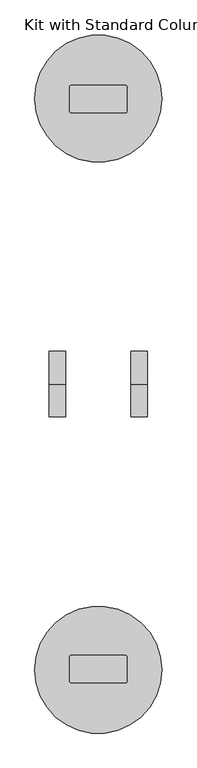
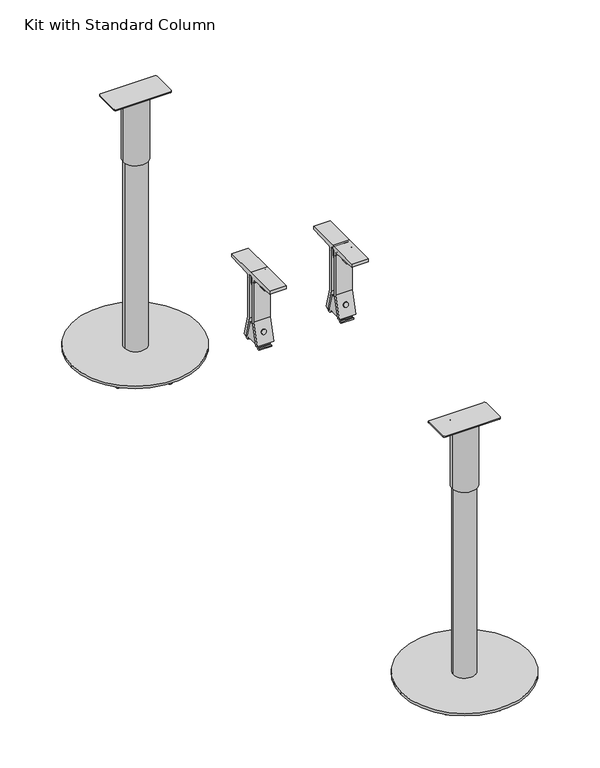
"""IFC4 building model written with IfcOpenShell, lengths in millimetres: furniture geometry, Steelcase - C Scape - Mid Storage Support - Mirrored Application : Kit with Standard Column."""

from ifc_helpers import new_model, si_unit, point, frame, frame_2d, origin, origin_with_axes, place, context, project, spatial, polyline, circle_curve, trimmed, segment, composite_curve, outline, extrude, source, transform, mapped, element, save
from ifc_brep_helpers import plane_surface, cylinder_surface, advanced_brep


def kit_with_standard_column_b97b8489(model_context):
    return source(origin(), model_context, "Body", "SolidModel", [
        extrude(outline(composite_curve([segment(polyline([(388.5822894, -924.3755951), (221.2781732, -924.3755951)]), True, "CONTINUOUS"), segment(trimmed(circle_curve(frame_2d((221.2781732, -918.997434)), 5.3781611), [point((221.2781732, -924.3755951))], [point((215.9000121, -918.997434))], False, "CARTESIAN"), True, "CONTINUOUS"), segment(polyline([(215.9000121, -918.997434), (215.9000121, -844.3790844)]), True, "CONTINUOUS"), segment(trimmed(circle_curve(frame_2d((220.9933657, -844.3790844)), 5.0933536), [point((215.9000121, -844.3790844))], [point((220.9933657, -839.2857308))], False, "CARTESIAN"), True, "CONTINUOUS"), segment(polyline([(220.9933657, -839.2857308), (388.5118021, -839.2857308)]), True, "CONTINUOUS"), segment(trimmed(circle_curve(frame_2d((388.5118021, -844.4739165)), 5.1881858), [point((388.5118021, -839.2857308))], [point((393.6999879, -844.4739165))], False, "CARTESIAN"), True, "CONTINUOUS"), segment(polyline([(393.6999879, -844.4739165), (393.6999879, -919.2578966)]), True, "CONTINUOUS"), segment(trimmed(circle_curve(frame_2d((388.5822894, -919.2578966)), 5.1176985), [point((393.6999879, -919.2578966))], [point((388.5822894, -924.3755951))], False, "CARTESIAN"), True, "CONTINUOUS")], self_intersect=False)), frame((0.0, 0.0, 835.152), z_axis=(0.0, 0.0, 1.0), x_axis=(1.0, 0.0, 0.0)), (0.0, 0.0, 1.0), 3.048),
        extrude(outline(composite_curve([segment(trimmed(circle_curve(frame_2d((304.8, -881.830663)), 33.998969), [point((270.801031, -881.830663))], [point((338.798969, -881.830663))], False, "CARTESIAN"), True, "CONTINUOUS"), segment(trimmed(circle_curve(frame_2d((304.8, -881.830663)), 33.998969), [point((338.798969, -881.830663))], [point((270.801031, -881.830663))], False, "CARTESIAN"), True, "CONTINUOUS")], self_intersect=False)), frame((0.0, 0.0, 14.3002), z_axis=(0.0, 0.0, 1.0), x_axis=(1.0, 0.0, 0.0)), (0.0, 0.0, 1.0), 611.3018),
        extrude(outline(composite_curve([segment(trimmed(circle_curve(frame_2d((304.8, -881.830663)), 38.1), [point((266.7, -881.830663))], [point((342.9, -881.830663))], False, "CARTESIAN"), True, "CONTINUOUS"), segment(trimmed(circle_curve(frame_2d((304.8, -881.830663)), 38.1), [point((342.9, -881.830663))], [point((266.7, -881.830663))], False, "CARTESIAN"), True, "CONTINUOUS")], self_intersect=False)), frame((0.0, 0.0, 625.602), z_axis=(0.0, 0.0, 1.0), x_axis=(1.0, 0.0, 0.0)), (0.0, 0.0, 1.0), 209.55),
        extrude(outline(composite_curve([segment(trimmed(circle_curve(frame_2d((304.8, -883.7357308)), 196.85), [point((107.95, -883.7357308))], [point((501.65, -883.7357308))], False, "CARTESIAN"), True, "CONTINUOUS"), segment(trimmed(circle_curve(frame_2d((304.8, -883.7357308)), 196.85), [point((501.65, -883.7357308))], [point((107.95, -883.7357308))], False, "CARTESIAN"), True, "CONTINUOUS")], self_intersect=False)), frame((0.0, 0.0, 6.2992), z_axis=(0.0, 0.0, 1.0), x_axis=(1.0, 0.0, 0.0)), (0.0, 0.0, 1.0), 8.001),
        extrude(outline(composite_curve([segment(trimmed(circle_curve(frame_2d((304.8, -1065.8931778)), 6.35), [point((298.45, -1065.8931778))], [point((311.15, -1065.8931778))], False, "CARTESIAN"), True, "CONTINUOUS"), segment(trimmed(circle_curve(frame_2d((304.8, -1065.8931778)), 6.35), [point((311.15, -1065.8931778))], [point((298.45, -1065.8931778))], False, "CARTESIAN"), True, "CONTINUOUS")], self_intersect=False)), origin_with_axes(), (0.0, 0.0, 1.0), 6.2992),
        extrude(outline(composite_curve([segment(trimmed(circle_curve(frame_2d((304.8, -697.7681481)), 6.35), [point((298.45, -697.7681481))], [point((311.15, -697.7681481))], False, "CARTESIAN"), True, "CONTINUOUS"), segment(trimmed(circle_curve(frame_2d((304.8, -697.7681481)), 6.35), [point((311.15, -697.7681481))], [point((298.45, -697.7681481))], False, "CARTESIAN"), True, "CONTINUOUS")], self_intersect=False)), origin_with_axes(), (0.0, 0.0, 1.0), 6.2992),
        extrude(outline(composite_curve([segment(trimmed(circle_curve(frame_2d((434.9518524, -751.6788105)), 6.35), [point((428.6018524, -751.6788105))], [point((441.3018524, -751.6788105))], False, "CARTESIAN"), True, "CONTINUOUS"), segment(trimmed(circle_curve(frame_2d((434.9518524, -751.6788105)), 6.35), [point((441.3018524, -751.6788105))], [point((428.6018524, -751.6788105))], False, "CARTESIAN"), True, "CONTINUOUS")], self_intersect=False)), origin_with_axes(), (0.0, 0.0, 1.0), 6.2992),
        extrude(outline(composite_curve([segment(trimmed(circle_curve(frame_2d((174.6481476, -1011.9825154)), 6.35), [point((168.2981476, -1011.9825154))], [point((180.9981476, -1011.9825154))], False, "CARTESIAN"), True, "CONTINUOUS"), segment(trimmed(circle_curve(frame_2d((174.6481476, -1011.9825154)), 6.35), [point((180.9981476, -1011.9825154))], [point((168.2981476, -1011.9825154))], False, "CARTESIAN"), True, "CONTINUOUS")], self_intersect=False)), origin_with_axes(), (0.0, 0.0, 1.0), 6.2992),
        extrude(outline(composite_curve([segment(trimmed(circle_curve(frame_2d((174.6481476, -751.6788105)), 6.35), [point((168.2981476, -751.6788105))], [point((180.9981476, -751.6788105))], False, "CARTESIAN"), True, "CONTINUOUS"), segment(trimmed(circle_curve(frame_2d((174.6481476, -751.6788105)), 6.35), [point((180.9981476, -751.6788105))], [point((168.2981476, -751.6788105))], False, "CARTESIAN"), True, "CONTINUOUS")], self_intersect=False)), origin_with_axes(), (0.0, 0.0, 1.0), 6.2992),
        extrude(outline(composite_curve([segment(trimmed(circle_curve(frame_2d((434.9518524, -1011.9825154)), 6.35), [point((428.6018524, -1011.9825154))], [point((441.3018524, -1011.9825154))], False, "CARTESIAN"), True, "CONTINUOUS"), segment(trimmed(circle_curve(frame_2d((434.9518524, -1011.9825154)), 6.35), [point((441.3018524, -1011.9825154))], [point((428.6018524, -1011.9825154))], False, "CARTESIAN"), True, "CONTINUOUS")], self_intersect=False)), origin_with_axes(), (0.0, 0.0, 1.0), 6.2992),
        extrude(outline(composite_curve([segment(trimmed(circle_curve(frame_2d((488.8625149, -881.830663)), 6.35), [point((482.5125149, -881.830663))], [point((495.2125149, -881.830663))], False, "CARTESIAN"), True, "CONTINUOUS"), segment(trimmed(circle_curve(frame_2d((488.8625149, -881.830663)), 6.35), [point((495.2125149, -881.830663))], [point((482.5125149, -881.830663))], False, "CARTESIAN"), True, "CONTINUOUS")], self_intersect=False)), origin_with_axes(), (0.0, 0.0, 1.0), 6.2992),
        extrude(outline(composite_curve([segment(trimmed(circle_curve(frame_2d((120.7374851, -881.830663)), 6.35), [point((114.3874851, -881.830663))], [point((127.0874851, -881.830663))], False, "CARTESIAN"), True, "CONTINUOUS"), segment(trimmed(circle_curve(frame_2d((120.7374851, -881.830663)), 6.35), [point((127.0874851, -881.830663))], [point((114.3874851, -881.830663))], False, "CARTESIAN"), True, "CONTINUOUS")], self_intersect=False)), origin_with_axes(), (0.0, 0.0, 1.0), 6.2992),
        extrude(outline(composite_curve([segment(trimmed(circle_curve(frame_2d((0.0, -7.62)), 7.62), [point((0.0, -15.2400001))], [point((0.0, 0.0))], False, "CARTESIAN"), True, "CONTINUOUS"), segment(trimmed(circle_curve(frame_2d((0.0, -7.62)), 7.62), [point((0.0, 0.0))], [point((0.0, -15.2400001))], False, "CARTESIAN"), True, "CONTINUOUS")], self_intersect=False)), frame((431.6372744, -27.6488399, 643.460563), z_axis=(0.0, -0.9612616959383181, 0.27563735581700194), x_axis=(-1.0, 0.0, 0.0)), (0.0, 0.0, 1.0), 1.4986),
        extrude(outline(composite_curve([segment(trimmed(circle_curve(frame_2d((0.0, -7.62)), 7.62), [point((0.0, -15.2400001))], [point((0.0, 0.0))], False, "CARTESIAN"), True, "CONTINUOUS"), segment(trimmed(circle_curve(frame_2d((0.0, -7.62)), 7.62), [point((0.0, 0.0))], [point((0.0, -15.2400001))], False, "CARTESIAN"), True, "CONTINUOUS")], self_intersect=False)), frame((431.6372744, 27.6488399, 643.460563), z_axis=(0.0, 0.9612616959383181, 0.27563735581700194), x_axis=(1.0, 0.0, 0.0)), (0.0, 0.0, 1.0), 1.4986),
        extrude(outline(composite_curve([segment(polyline([(831.0188755, 412.7499939), (796.4677708, 412.7499939)]), True, "CONTINUOUS"), segment(trimmed(circle_curve(frame_2d((796.4677708, 431.7223365)), 18.9723425), [point((796.4677708, 412.7499939))], [point((796.4677708, 450.694679))], False, "CARTESIAN"), True, "CONTINUOUS"), segment(polyline([(796.4677708, 450.694679), (831.0188755, 450.694679), (831.0188755, 412.7499939)]), True, "CONTINUOUS")], self_intersect=False)), frame((0.0, -7.7216, 0.0), z_axis=(0.0, 1.0, 0.0), x_axis=(0.0, 0.0, 1.0)), (0.0, 0.0, 1.0), 15.4432),
        extrude(outline(composite_curve([segment(trimmed(circle_curve(frame_2d((795.2125216, 431.6777999)), 5.08), [point((795.2125216, 426.5977999))], [point((795.2125216, 436.7577999))], False, "CARTESIAN"), True, "CONTINUOUS"), segment(trimmed(circle_curve(frame_2d((795.2125216, 431.6777999)), 5.08), [point((795.2125216, 436.7577999))], [point((795.2125216, 426.5977999))], False, "CARTESIAN"), True, "CONTINUOUS")], self_intersect=False)), frame((0.0, -33.751708, 0.0), z_axis=(0.0, 1.0, 0.0), x_axis=(0.0, 0.0, 1.0)), (0.0, 0.0, 1.0), 67.5034159),
        extrude(outline(polyline([(-12.7029566, 666.75), (0.0, 666.75), (12.7029566, 666.75), (28.4480001, 611.8301829), (28.4480001, 607.0345769), (29.7688272, 605.713791), (34.9250008, 605.713791), (34.9250008, 601.7005912), (32.4173128, 600.2527871), (27.5068015, 600.2527871), (22.9870008, 604.7725827), (22.9870008, 610.3620174), (0.0, 610.3620174), (-22.9870008, 610.3620174), (-22.9870008, 604.7725827), (-27.5068015, 600.2527871), (-32.4173128, 600.2527871), (-34.9250008, 601.7005912), (-34.9250008, 605.713791), (-29.7688272, 605.713791), (-28.4480001, 607.0345769), (-28.4480001, 611.8301829), (-12.7029566, 666.75)])), frame((412.8276575, 0.0, 0.0), z_axis=(1.0, 0.0, 0.0), x_axis=(0.0, 1.0, 0.0)), (0.0, 0.0, 1.0), 37.9446851),
        extrude(outline(composite_curve([segment(polyline([(0.0, 838.2), (101.600003, 838.2), (101.600003, 828.2177708), (19.2990887, 824.4254454)]), True, "CONTINUOUS"), segment(trimmed(circle_curve(frame_2d((19.4630785, 820.8665431)), 3.5626785), [point((19.2990887, 824.4254454))], [point((15.9004, 820.8665431))], True, "CARTESIAN"), True, "CONTINUOUS"), segment(polyline([(15.9004, 820.8665431), (15.9004, 813.4440849), (14.8286664, 813.0540058), (15.9004, 813.0540058), (15.9004, 684.432242), (35.5026697, 616.0710033), (27.860447, 613.8796312), (7.9494757, 683.3174402), (7.9494757, 821.8670528)]), True, "CONTINUOUS"), segment(trimmed(circle_curve(frame_2d((0.0, 821.8670528)), 7.9494757), [point((7.9494757, 821.8670528))], [point((-7.9494757, 821.8670528))], True, "CARTESIAN"), True, "CONTINUOUS"), segment(polyline([(-7.9494757, 821.8670528), (-7.9494757, 683.3174402), (-27.860447, 613.8796312), (-35.5026697, 616.0710033), (-15.9004, 684.432242), (-15.9004, 813.0540058), (-14.8286664, 813.0540058), (-15.9004, 813.4440849), (-15.9004, 820.8665431)]), True, "CONTINUOUS"), segment(trimmed(circle_curve(frame_2d((-19.4630785, 820.8665431)), 3.5626785), [point((-15.9004, 820.8665431))], [point((-19.2990887, 824.4254454))], True, "CARTESIAN"), True, "CONTINUOUS"), segment(polyline([(-19.2990887, 824.4254454), (-101.600003, 828.2177708), (-101.600003, 838.2), (0.0, 838.2)]), True, "CONTINUOUS")], self_intersect=False)), frame((406.4, 0.0, 0.0), z_axis=(1.0, 0.0, 0.0), x_axis=(0.0, 1.0, 0.0)), (0.0, 0.0, 1.0), 50.8),
        extrude(outline(composite_curve([segment(trimmed(circle_curve(frame_2d((0.0, -7.62)), 7.62), [point((0.0, -15.2400001))], [point((0.0, 0.0))], False, "CARTESIAN"), True, "CONTINUOUS"), segment(trimmed(circle_curve(frame_2d((0.0, -7.62)), 7.62), [point((0.0, 0.0))], [point((0.0, -15.2400001))], False, "CARTESIAN"), True, "CONTINUOUS")], self_intersect=False)), frame((177.6372744, -27.6488399, 643.460563), z_axis=(0.0, -0.9612616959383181, 0.27563735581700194), x_axis=(-1.0, 0.0, 0.0)), (0.0, 0.0, 1.0), 1.4986),
        extrude(outline(composite_curve([segment(trimmed(circle_curve(frame_2d((0.0, -7.62)), 7.62), [point((0.0, -15.2400001))], [point((0.0, 0.0))], False, "CARTESIAN"), True, "CONTINUOUS"), segment(trimmed(circle_curve(frame_2d((0.0, -7.62)), 7.62), [point((0.0, 0.0))], [point((0.0, -15.2400001))], False, "CARTESIAN"), True, "CONTINUOUS")], self_intersect=False)), frame((177.6372744, 27.6488399, 643.460563), z_axis=(0.0, 0.9612616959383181, 0.27563735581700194), x_axis=(1.0, 0.0, 0.0)), (0.0, 0.0, 1.0), 1.4986),
        extrude(outline(composite_curve([segment(trimmed(circle_curve(frame_2d((795.2125216, 177.6777999)), 5.08), [point((795.2125216, 172.5977999))], [point((795.2125216, 182.7577999))], False, "CARTESIAN"), True, "CONTINUOUS"), segment(trimmed(circle_curve(frame_2d((795.2125216, 177.6777999)), 5.08), [point((795.2125216, 182.7577999))], [point((795.2125216, 172.5977999))], False, "CARTESIAN"), True, "CONTINUOUS")], self_intersect=False)), frame((0.0, -33.751708, 0.0), z_axis=(0.0, 1.0, 0.0), x_axis=(0.0, 0.0, 1.0)), (0.0, 0.0, 1.0), 67.5034159),
        extrude(outline(composite_curve([segment(polyline([(831.0188755, 158.7499939), (796.4677708, 158.7499939)]), True, "CONTINUOUS"), segment(trimmed(circle_curve(frame_2d((796.4677708, 177.7223365)), 18.9723425), [point((796.4677708, 158.7499939))], [point((796.4677708, 196.694679))], False, "CARTESIAN"), True, "CONTINUOUS"), segment(polyline([(796.4677708, 196.694679), (831.0188755, 196.694679), (831.0188755, 158.7499939)]), True, "CONTINUOUS")], self_intersect=False)), frame((0.0, -7.7216, 0.0), z_axis=(0.0, 1.0, 0.0), x_axis=(0.0, 0.0, 1.0)), (0.0, 0.0, 1.0), 15.4432),
        extrude(outline(polyline([(-12.7029566, 666.75), (0.0, 666.75), (12.7029566, 666.75), (28.4480001, 611.8301829), (28.4480001, 607.0345769), (29.7688272, 605.713791), (34.9250008, 605.713791), (34.9250008, 601.7005912), (32.4173128, 600.2527871), (27.5068015, 600.2527871), (22.9870008, 604.7725827), (22.9870008, 610.3620174), (0.0, 610.3620174), (-22.9870008, 610.3620174), (-22.9870008, 604.7725827), (-27.5068015, 600.2527871), (-32.4173128, 600.2527871), (-34.9250008, 601.7005912), (-34.9250008, 605.713791), (-29.7688272, 605.713791), (-28.4480001, 607.0345769), (-28.4480001, 611.8301829), (-12.7029566, 666.75)])), frame((158.7499939, 0.0, 0.0), z_axis=(1.0, 0.0, 0.0), x_axis=(0.0, 1.0, 0.0)), (0.0, 0.0, 1.0), 37.9446851),
        extrude(outline(composite_curve([segment(polyline([(0.0, 838.2), (101.600003, 838.2), (101.600003, 828.2177708), (19.2990887, 824.4254454)]), True, "CONTINUOUS"), segment(trimmed(circle_curve(frame_2d((19.4630785, 820.8665431)), 3.5626785), [point((19.2990887, 824.4254454))], [point((15.9004, 820.8665431))], True, "CARTESIAN"), True, "CONTINUOUS"), segment(polyline([(15.9004, 820.8665431), (15.9004, 813.4440849), (14.8286664, 813.0540058), (15.9004, 813.0540058), (15.9004, 684.432242), (35.5026697, 616.0710033), (27.860447, 613.8796312), (7.9494757, 683.3174402), (7.9494757, 821.8670528)]), True, "CONTINUOUS"), segment(trimmed(circle_curve(frame_2d((0.0, 821.8670528)), 7.9494757), [point((7.9494757, 821.8670528))], [point((-7.9494757, 821.8670528))], True, "CARTESIAN"), True, "CONTINUOUS"), segment(polyline([(-7.9494757, 821.8670528), (-7.9494757, 683.3174402), (-27.860447, 613.8796312), (-35.5026697, 616.0710033), (-15.9004, 684.432242), (-15.9004, 813.0540058), (-14.8286664, 813.0540058), (-15.9004, 813.4440849), (-15.9004, 820.8665431)]), True, "CONTINUOUS"), segment(trimmed(circle_curve(frame_2d((-19.4630785, 820.8665431)), 3.5626785), [point((-15.9004, 820.8665431))], [point((-19.2990887, 824.4254454))], True, "CARTESIAN"), True, "CONTINUOUS"), segment(polyline([(-19.2990887, 824.4254454), (-101.600003, 828.2177708), (-101.600003, 838.2), (0.0, 838.2)]), True, "CONTINUOUS")], self_intersect=False)), frame((152.4, 0.0, 0.0), z_axis=(1.0, 0.0, 0.0), x_axis=(0.0, 1.0, 0.0)), (0.0, 0.0, 1.0), 50.8),
        advanced_brep(
        [(388.5822894, 924.3755951, 838.2), (221.2781732, 924.3755951, 838.2), (215.9000121, 918.997434, 838.2), (215.9000121, 844.3790844, 838.2), (220.9933657, 839.2857308, 838.2), (388.5118021, 839.2857308, 838.2), (393.6999879, 844.4739165, 838.2), (393.6999879, 919.2578966, 838.2), (388.5822894, 924.3755951, 835.152), (393.6999879, 919.2578966, 835.152), (393.6999879, 844.4739165, 835.152), (388.5118021, 839.2857308, 835.152), (220.9933657, 839.2857308, 835.152), (215.9000121, 844.3790844, 835.152), (215.9000121, 918.997434, 835.152), (221.2781732, 924.3755951, 835.152), (266.7, 881.830663, 835.152), (342.9, 881.830663, 835.152), (266.7, 881.830663, 625.602), (342.9, 881.830663, 625.602), (270.801031, 881.830663, 625.602), (338.798969, 881.830663, 625.602), (270.801031, 881.830663, 14.3002), (338.798969, 881.830663, 14.3002), (107.95, 883.7357308, 14.3002), (501.65, 883.7357308, 14.3002), (107.95, 883.7357308, 6.2992), (501.65, 883.7357308, 6.2992)],
        [
            (0, 1),
            (1, 2, circle_curve(frame((221.2781732, 918.997434, 838.2), z_axis=(0.0, 0.0, 1.0), x_axis=(1.0, 0.0, 0.0)), 5.3781611)),
            (2, 3),
            (3, 4, circle_curve(frame((220.9933657, 844.3790844, 838.2), z_axis=(0.0, 0.0, 1.0), x_axis=(1.0, 0.0, 0.0)), 5.0933536)),
            (4, 5),
            (5, 6, circle_curve(frame((388.5118021, 844.4739165, 838.2), z_axis=(0.0, 0.0, 1.0), x_axis=(1.0, 0.0, 0.0)), 5.1881858)),
            (6, 7),
            (7, 0, circle_curve(frame((388.5822894, 919.2578966, 838.2), z_axis=(0.0, 0.0, 1.0), x_axis=(1.0, 0.0, 0.0)), 5.1176985)),
            (8, 9, circle_curve(frame((388.5822894, 919.2578966, 835.152), z_axis=(0.0, 0.0, -1.0), x_axis=(1.0, 0.0, 0.0)), 5.1176985)),
            (9, 10),
            (10, 11, circle_curve(frame((388.5118021, 844.4739165, 835.152), z_axis=(0.0, 0.0, -1.0), x_axis=(1.0, 0.0, 0.0)), 5.1881858)),
            (11, 12),
            (12, 13, circle_curve(frame((220.9933657, 844.3790844, 835.152), z_axis=(0.0, 0.0, -1.0), x_axis=(1.0, 0.0, 0.0)), 5.0933536)),
            (13, 14),
            (14, 15, circle_curve(frame((221.2781732, 918.997434, 835.152), z_axis=(0.0, 0.0, -1.0), x_axis=(1.0, 0.0, 0.0)), 5.3781611)),
            (15, 8),
            (16, 17, circle_curve(frame((304.8, 881.830663, 835.152), z_axis=(0.0, 0.0, 1.0), x_axis=(1.0, 0.0, 0.0)), 38.1)),
            (17, 16, circle_curve(frame((304.8, 881.830663, 835.152), z_axis=(0.0, 0.0, 1.0), x_axis=(1.0, 0.0, 0.0)), 38.1)),
            (0, 8),
            (15, 1),
            (14, 2),
            (13, 3),
            (12, 4),
            (11, 5),
            (10, 6),
            (9, 7),
            (18, 19, circle_curve(frame((304.8, 881.830663, 625.602), z_axis=(0.0, 0.0, -1.0), x_axis=(1.0, 0.0, 0.0)), 38.1)),
            (19, 18, circle_curve(frame((304.8, 881.830663, 625.602), z_axis=(0.0, 0.0, -1.0), x_axis=(1.0, 0.0, 0.0)), 38.1)),
            (20, 21, circle_curve(frame((304.8, 881.830663, 625.602), z_axis=(0.0, 0.0, 1.0), x_axis=(1.0, 0.0, 0.0)), 33.998969)),
            (21, 20, circle_curve(frame((304.8, 881.830663, 625.602), z_axis=(0.0, 0.0, 1.0), x_axis=(1.0, 0.0, 0.0)), 33.998969)),
            (19, 17),
            (16, 18),
            (20, 22),
            (22, 23, circle_curve(frame((304.8, 881.830663, 14.3002), z_axis=(0.0, 0.0, 1.0), x_axis=(1.0, 0.0, 0.0)), 33.998969)),
            (23, 21),
            (23, 22, circle_curve(frame((304.8, 881.830663, 14.3002), z_axis=(0.0, 0.0, 1.0), x_axis=(1.0, 0.0, 0.0)), 33.998969)),
            (24, 25, circle_curve(frame((304.8, 883.7357308, 14.3002), z_axis=(0.0, 0.0, 1.0), x_axis=(1.0, 0.0, 0.0)), 196.85)),
            (25, 24, circle_curve(frame((304.8, 883.7357308, 14.3002), z_axis=(0.0, 0.0, 1.0), x_axis=(1.0, 0.0, 0.0)), 196.85)),
            (26, 27, circle_curve(frame((304.8, 883.7357308, 6.2992), z_axis=(0.0, 0.0, -1.0), x_axis=(1.0, 0.0, 0.0)), 196.85)),
            (27, 26, circle_curve(frame((304.8, 883.7357308, 6.2992), z_axis=(0.0, 0.0, -1.0), x_axis=(1.0, 0.0, 0.0)), 196.85)),
            (24, 26),
            (27, 25),
        ],
        [
            plane_surface(frame((221.2781732, 924.3755951, 838.2), z_axis=(0.0, 0.0, 1.0), x_axis=(-1.0, 0.0, 0.0))),
            plane_surface(frame((221.2781732, 924.3755951, 835.152), z_axis=(0.0, 0.0, -1.0), x_axis=(1.0, 0.0, 0.0))),
            plane_surface(frame((388.5822894, 924.3755951, 838.2), z_axis=(0.0, 1.0, 0.0), x_axis=(0.0, 0.0, -1.0))),
            cylinder_surface(frame((221.2781732, 918.997434, 835.152), z_axis=(0.0, 0.0, 1.0), x_axis=(1.0, 0.0, 0.0)), 5.3781611),
            plane_surface(frame((215.9000121, 918.997434, 838.2), z_axis=(-1.0, 0.0, 0.0), x_axis=(0.0, 0.0, -1.0))),
            cylinder_surface(frame((220.9933657, 844.3790844, 835.152), z_axis=(0.0, 0.0, 1.0), x_axis=(1.0, 0.0, 0.0)), 5.0933536),
            plane_surface(frame((220.9933657, 839.2857308, 838.2), z_axis=(0.0, -1.0, 0.0), x_axis=(0.0, 0.0, -1.0))),
            cylinder_surface(frame((388.5118021, 844.4739165, 835.152), z_axis=(0.0, 0.0, 1.0), x_axis=(1.0, 0.0, 0.0)), 5.1881858),
            plane_surface(frame((393.6999879, 844.4739165, 838.2), z_axis=(1.0, 0.0, 0.0), x_axis=(0.0, 0.0, -1.0))),
            cylinder_surface(frame((388.5822894, 919.2578966, 835.152), z_axis=(0.0, 0.0, 1.0), x_axis=(1.0, 0.0, 0.0)), 5.1176985),
            plane_surface(frame((342.9, 881.830663, 625.602), z_axis=(0.0, 0.0, -1.0), x_axis=(0.0, -1.0, 0.0))),
            cylinder_surface(frame((304.8, 881.830663, 625.602), z_axis=(0.0, 0.0, 1.0), x_axis=(1.0, 0.0, 0.0)), 38.1),
            cylinder_surface(frame((304.8, 881.830663, 14.3002), z_axis=(0.0, 0.0, 1.0), x_axis=(1.0, 0.0, 0.0)), 33.998969),
            plane_surface(frame((501.65, 883.7357308, 14.3002), z_axis=(0.0, 0.0, 1.0), x_axis=(0.0, 1.0, 0.0))),
            plane_surface(frame((501.65, 883.7357308, 6.2992), z_axis=(0.0, 0.0, -1.0), x_axis=(0.0, -1.0, 0.0))),
            cylinder_surface(frame((304.8, 883.7357308, 6.2992), z_axis=(0.0, 0.0, 1.0), x_axis=(1.0, 0.0, 0.0)), 196.85),
        ],
        [
            (0, [[1, 2, 3, 4, 5, 6, 7, 8]]),
            (1, [[9, 10, 11, 12, 13, 14, 15, 16], [17, 18]]),
            (2, [[-1, 19, -16, 20]]),
            (3, [[-2, -20, -15, 21]]),
            (4, [[-3, -21, -14, 22]]),
            (5, [[-4, -22, -13, 23]]),
            (6, [[-5, -23, -12, 24]]),
            (7, [[-6, -24, -11, 25]]),
            (8, [[-7, -25, -10, 26]]),
            (9, [[-8, -26, -9, -19]]),
            (10, [[27, 28], [29, 30]]),
            (11, [[-28, 31, -17, 32]]),
            (11, [[-27, -32, -18, -31]]),
            (12, [[33, 34, 35, -29]]),
            (12, [[-33, -30, -35, 36]]),
            (13, [[37, 38], [-34, -36]]),
            (14, [[39, 40]]),
            (15, [[-37, 41, -40, 42]]),
            (15, [[-38, -42, -39, -41]]),
        ],
    ),
        extrude(outline(composite_curve([segment(trimmed(circle_curve(frame_2d((304.8, 1065.8931778)), 6.35), [point((298.45, 1065.8931778))], [point((311.15, 1065.8931778))], False, "CARTESIAN"), True, "CONTINUOUS"), segment(trimmed(circle_curve(frame_2d((304.8, 1065.8931778)), 6.35), [point((311.15, 1065.8931778))], [point((298.45, 1065.8931778))], False, "CARTESIAN"), True, "CONTINUOUS")], self_intersect=False)), origin_with_axes(), (0.0, 0.0, 1.0), 6.2992),
        extrude(outline(composite_curve([segment(trimmed(circle_curve(frame_2d((304.8, 697.7681481)), 6.35), [point((298.45, 697.7681481))], [point((311.15, 697.7681481))], False, "CARTESIAN"), True, "CONTINUOUS"), segment(trimmed(circle_curve(frame_2d((304.8, 697.7681481)), 6.35), [point((311.15, 697.7681481))], [point((298.45, 697.7681481))], False, "CARTESIAN"), True, "CONTINUOUS")], self_intersect=False)), origin_with_axes(), (0.0, 0.0, 1.0), 6.2992),
        extrude(outline(composite_curve([segment(trimmed(circle_curve(frame_2d((434.9518524, 751.6788105)), 6.35), [point((428.6018524, 751.6788105))], [point((441.3018524, 751.6788105))], False, "CARTESIAN"), True, "CONTINUOUS"), segment(trimmed(circle_curve(frame_2d((434.9518524, 751.6788105)), 6.35), [point((441.3018524, 751.6788105))], [point((428.6018524, 751.6788105))], False, "CARTESIAN"), True, "CONTINUOUS")], self_intersect=False)), origin_with_axes(), (0.0, 0.0, 1.0), 6.2992),
        extrude(outline(composite_curve([segment(trimmed(circle_curve(frame_2d((174.6481476, 1011.9825154)), 6.35), [point((168.2981476, 1011.9825154))], [point((180.9981476, 1011.9825154))], False, "CARTESIAN"), True, "CONTINUOUS"), segment(trimmed(circle_curve(frame_2d((174.6481476, 1011.9825154)), 6.35), [point((180.9981476, 1011.9825154))], [point((168.2981476, 1011.9825154))], False, "CARTESIAN"), True, "CONTINUOUS")], self_intersect=False)), origin_with_axes(), (0.0, 0.0, 1.0), 6.2992),
        extrude(outline(composite_curve([segment(trimmed(circle_curve(frame_2d((174.6481476, 751.6788105)), 6.35), [point((168.2981476, 751.6788105))], [point((180.9981476, 751.6788105))], False, "CARTESIAN"), True, "CONTINUOUS"), segment(trimmed(circle_curve(frame_2d((174.6481476, 751.6788105)), 6.35), [point((180.9981476, 751.6788105))], [point((168.2981476, 751.6788105))], False, "CARTESIAN"), True, "CONTINUOUS")], self_intersect=False)), origin_with_axes(), (0.0, 0.0, 1.0), 6.2992),
        extrude(outline(composite_curve([segment(trimmed(circle_curve(frame_2d((434.9518524, 1011.9825154)), 6.35), [point((428.6018524, 1011.9825154))], [point((441.3018524, 1011.9825154))], False, "CARTESIAN"), True, "CONTINUOUS"), segment(trimmed(circle_curve(frame_2d((434.9518524, 1011.9825154)), 6.35), [point((441.3018524, 1011.9825154))], [point((428.6018524, 1011.9825154))], False, "CARTESIAN"), True, "CONTINUOUS")], self_intersect=False)), origin_with_axes(), (0.0, 0.0, 1.0), 6.2992),
        extrude(outline(composite_curve([segment(trimmed(circle_curve(frame_2d((488.8625149, 881.830663)), 6.35), [point((482.5125149, 881.830663))], [point((495.2125149, 881.830663))], False, "CARTESIAN"), True, "CONTINUOUS"), segment(trimmed(circle_curve(frame_2d((488.8625149, 881.830663)), 6.35), [point((495.2125149, 881.830663))], [point((482.5125149, 881.830663))], False, "CARTESIAN"), True, "CONTINUOUS")], self_intersect=False)), origin_with_axes(), (0.0, 0.0, 1.0), 6.2992),
        extrude(outline(composite_curve([segment(trimmed(circle_curve(frame_2d((120.7374851, 881.830663)), 6.35), [point((114.3874851, 881.830663))], [point((127.0874851, 881.830663))], False, "CARTESIAN"), True, "CONTINUOUS"), segment(trimmed(circle_curve(frame_2d((120.7374851, 881.830663)), 6.35), [point((127.0874851, 881.830663))], [point((114.3874851, 881.830663))], False, "CARTESIAN"), True, "CONTINUOUS")], self_intersect=False)), origin_with_axes(), (0.0, 0.0, 1.0), 6.2992),
    ])


if __name__ == "__main__":
    model = new_model("IFC4")
    model_context = context("Model", 3, world=origin())
    ifc_project = project(units=[si_unit("LENGTHUNIT", "METRE", prefix="MILLI")], contexts=[model_context])
    site = spatial("IfcSite", under=ifc_project)
    building = spatial("IfcBuilding", under=site)
    placement = place(None, origin())
    kit_with_standard_column_shape = kit_with_standard_column_b97b8489(model_context)
    element("IfcFurniture", 1, ObjectType="Steelcase - C Scape - Mid Storage Support - Mirrored Application : Kit with Standard Column", at=placement, inside=building, context=model_context, shape_type="MappedRepresentation", body=[
        mapped(kit_with_standard_column_shape, transform((0.0, 0.0, 0.0), x_axis=(1.0, 0.0, 0.0), y_axis=(0.0, 1.0, 0.0), z_axis=(0.0, 0.0, 1.0))),
    ])
    save(model, "model.ifc")
